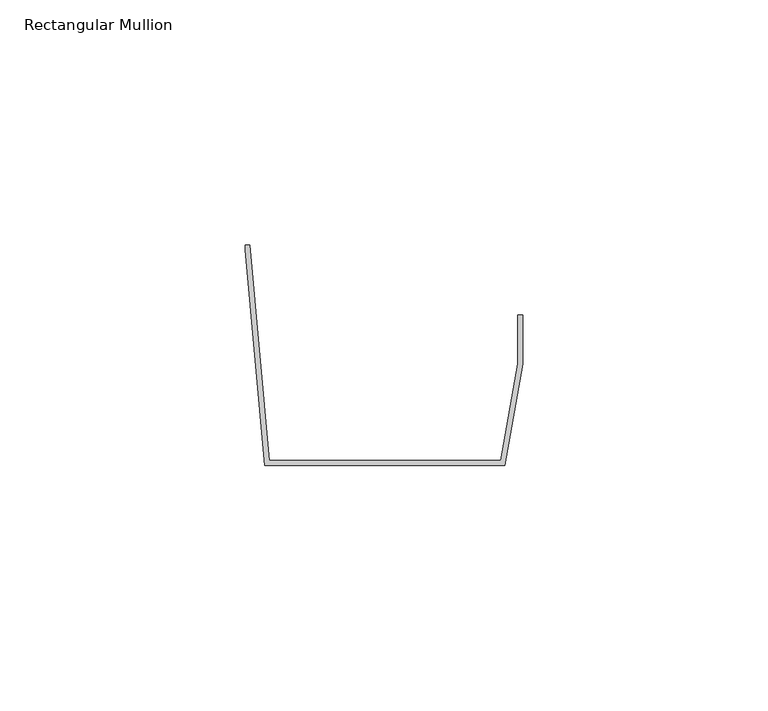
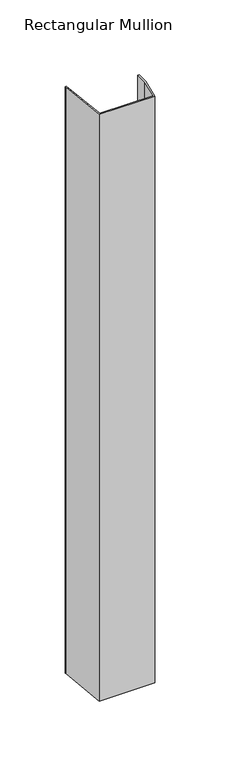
"""IFC4 building model written with IfcOpenShell, lengths in millimetres: member geometry, Rectangular Mullion : CD_NINELINE_Batten End."""

from ifc_helpers import new_model, si_unit, frame, origin, place, context, project, spatial, polyline, outline, extrude, source, transform, mapped, element, save


def rectangular_mullion_ccb74b43(model_context):
    return source(origin(), model_context, "Body", "SweptSolid", [
        extrude(outline(polyline([(-56.6433895, -1.0), (-56.6433895, 0.0), (-55.7301749, 0.0), (-51.7301749, -44.0), (-4.4824892, -44.0), (-1.0, -24.2498225), (-1.0, -14.3373112), (0.0, -14.3373112), (0.0, -24.3373112), (-3.6433895, -45.0), (-52.6433895, -45.0), (-56.6433895, -1.0)])), frame((0.0, 0.0, -547.0), z_axis=(0.0, 0.0, 1.0), x_axis=(1.0, 0.0, 0.0)), (0.0, 0.0, 1.0), 547.0),
    ])


if __name__ == "__main__":
    model = new_model("IFC4")
    model_context = context("Model", 3, world=origin())
    ifc_project = project(units=[si_unit("LENGTHUNIT", "METRE", prefix="MILLI")], contexts=[model_context])
    site = spatial("IfcSite", under=ifc_project)
    building = spatial("IfcBuilding", under=site)
    placement = place(None, origin())
    rectangular_mullion_shape = rectangular_mullion_ccb74b43(model_context)
    element("IfcMember", 1, ObjectType="Rectangular Mullion : CD_NINELINE_Batten End", at=placement, inside=building, context=model_context, shape_type="MappedRepresentation", body=[
        mapped(rectangular_mullion_shape, transform((0.0, 0.0, 0.0), x_axis=(1.0, 0.0, 0.0), y_axis=(0.0, 1.0, 0.0), z_axis=(0.0, 0.0, 1.0))),
    ])
    save(model, "model.ifc")
